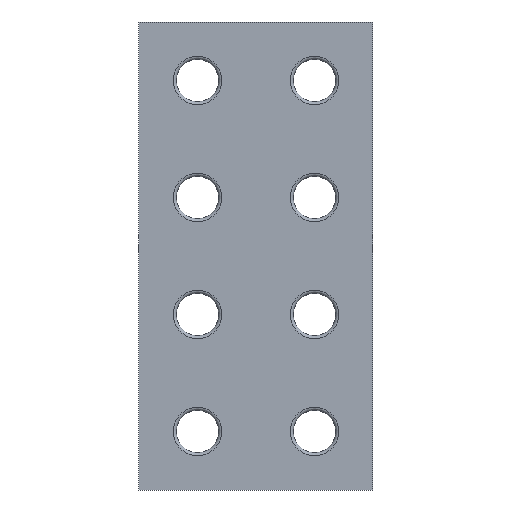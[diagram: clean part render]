
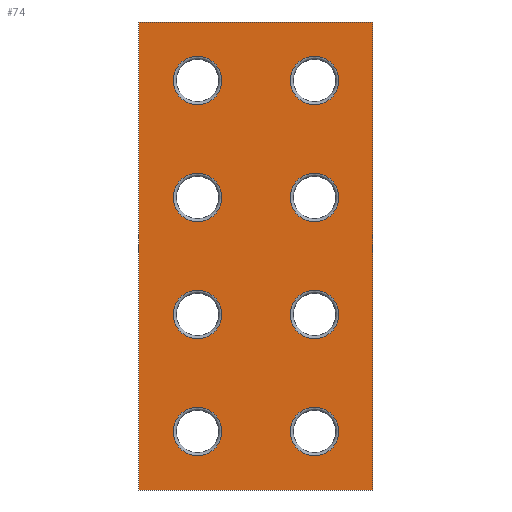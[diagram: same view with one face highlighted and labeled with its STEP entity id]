
A CAD part, left-side view. The second image highlights one B-rep face of the part: STEP entity #74.
In plain terms, the highlighted planar face has unit normal (-1, 0, 0).
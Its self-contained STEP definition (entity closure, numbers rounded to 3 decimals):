
#74 = ADVANCED_FACE( '', ( #186, #187, #188, #189, #190, #191, #192, #193, #194 ), #195, .F. );
#186 = FACE_BOUND( '', #387, .T. );
#187 = FACE_BOUND( '', #388, .T. );
#188 = FACE_BOUND( '', #389, .T. );
#189 = FACE_BOUND( '', #390, .T. );
#190 = FACE_BOUND( '', #391, .T. );
#191 = FACE_BOUND( '', #392, .T. );
#192 = FACE_BOUND( '', #393, .T. );
#193 = FACE_BOUND( '', #394, .T. );
#194 = FACE_OUTER_BOUND( '', #395, .T. );
#195 = PLANE( '', #396 );
#387 = EDGE_LOOP( '', ( #589 ) );
#388 = EDGE_LOOP( '', ( #590 ) );
#389 = EDGE_LOOP( '', ( #591 ) );
#390 = EDGE_LOOP( '', ( #592 ) );
#391 = EDGE_LOOP( '', ( #593 ) );
#392 = EDGE_LOOP( '', ( #594 ) );
#393 = EDGE_LOOP( '', ( #595 ) );
#394 = EDGE_LOOP( '', ( #596 ) );
#395 = EDGE_LOOP( '', ( #597, #598, #599, #600 ) );
#396 = AXIS2_PLACEMENT_3D( '', #601, #602, #603 );
#589 = ORIENTED_EDGE( '', *, *, #887, .T. );
#590 = ORIENTED_EDGE( '', *, *, #888, .T. );
#591 = ORIENTED_EDGE( '', *, *, #889, .T. );
#592 = ORIENTED_EDGE( '', *, *, #890, .T. );
#593 = ORIENTED_EDGE( '', *, *, #891, .T. );
#594 = ORIENTED_EDGE( '', *, *, #892, .T. );
#595 = ORIENTED_EDGE( '', *, *, #893, .T. );
#596 = ORIENTED_EDGE( '', *, *, #894, .T. );
#597 = ORIENTED_EDGE( '', *, *, #882, .F. );
#598 = ORIENTED_EDGE( '', *, *, #895, .F. );
#599 = ORIENTED_EDGE( '', *, *, #896, .F. );
#600 = ORIENTED_EDGE( '', *, *, #897, .F. );
#601 = CARTESIAN_POINT( '', ( -160., 0., 0. ) );
#602 = DIRECTION( '', ( 1., 0., 0. ) );
#603 = DIRECTION( '', ( 0., 1., 0. ) );
#882 = EDGE_CURVE( '', #990, #991, #992, .T. );
#887 = EDGE_CURVE( '', #999, #999, #1000, .T. );
#888 = EDGE_CURVE( '', #1001, #1001, #1002, .T. );
#889 = EDGE_CURVE( '', #1003, #1003, #1004, .T. );
#890 = EDGE_CURVE( '', #1005, #1005, #1006, .T. );
#891 = EDGE_CURVE( '', #1007, #1007, #1008, .T. );
#892 = EDGE_CURVE( '', #1009, #1009, #1010, .T. );
#893 = EDGE_CURVE( '', #1011, #1011, #1012, .T. );
#894 = EDGE_CURVE( '', #1013, #1013, #1014, .T. );
#895 = EDGE_CURVE( '', #1015, #990, #1016, .T. );
#896 = EDGE_CURVE( '', #1017, #1015, #1018, .T. );
#897 = EDGE_CURVE( '', #991, #1017, #1019, .T. );
#990 = VERTEX_POINT( '', #1152 );
#991 = VERTEX_POINT( '', #1153 );
#992 = LINE( '', #1154, #1155 );
#999 = VERTEX_POINT( '', #1165 );
#1000 = CIRCLE( '', #1166, 7.26 );
#1001 = VERTEX_POINT( '', #1167 );
#1002 = CIRCLE( '', #1168, 7.26 );
#1003 = VERTEX_POINT( '', #1169 );
#1004 = CIRCLE( '', #1170, 7.26 );
#1005 = VERTEX_POINT( '', #1171 );
#1006 = CIRCLE( '', #1172, 7.26 );
#1007 = VERTEX_POINT( '', #1173 );
#1008 = CIRCLE( '', #1174, 7.26 );
#1009 = VERTEX_POINT( '', #1175 );
#1010 = CIRCLE( '', #1176, 7.26 );
#1011 = VERTEX_POINT( '', #1177 );
#1012 = CIRCLE( '', #1178, 7.26 );
#1013 = VERTEX_POINT( '', #1179 );
#1014 = CIRCLE( '', #1180, 7.26 );
#1015 = VERTEX_POINT( '', #1181 );
#1016 = LINE( '', #1182, #1183 );
#1017 = VERTEX_POINT( '', #1184 );
#1018 = LINE( '', #1185, #1186 );
#1019 = LINE( '', #1187, #1188 );
#1152 = CARTESIAN_POINT( '', ( -160., -35., 70. ) );
#1153 = CARTESIAN_POINT( '', ( -160., -35., -70. ) );
#1154 = CARTESIAN_POINT( '', ( -160., -35., 70. ) );
#1155 = VECTOR( '', #1326, 1000. );
#1165 = CARTESIAN_POINT( '', ( -160., -10.24, -52.5 ) );
#1166 = AXIS2_PLACEMENT_3D( '', #1330, #1331, #1332 );
#1167 = CARTESIAN_POINT( '', ( -160., -10.24, -17.5 ) );
#1168 = AXIS2_PLACEMENT_3D( '', #1333, #1334, #1335 );
#1169 = CARTESIAN_POINT( '', ( -160., -10.24, 17.5 ) );
#1170 = AXIS2_PLACEMENT_3D( '', #1336, #1337, #1338 );
#1171 = CARTESIAN_POINT( '', ( -160., -10.24, 52.5 ) );
#1172 = AXIS2_PLACEMENT_3D( '', #1339, #1340, #1341 );
#1173 = CARTESIAN_POINT( '', ( -160., 24.76, -52.5 ) );
#1174 = AXIS2_PLACEMENT_3D( '', #1342, #1343, #1344 );
#1175 = CARTESIAN_POINT( '', ( -160., 24.76, -17.5 ) );
#1176 = AXIS2_PLACEMENT_3D( '', #1345, #1346, #1347 );
#1177 = CARTESIAN_POINT( '', ( -160., 24.76, 17.5 ) );
#1178 = AXIS2_PLACEMENT_3D( '', #1348, #1349, #1350 );
#1179 = CARTESIAN_POINT( '', ( -160., 24.76, 52.5 ) );
#1180 = AXIS2_PLACEMENT_3D( '', #1351, #1352, #1353 );
#1181 = CARTESIAN_POINT( '', ( -160., 35., 70. ) );
#1182 = CARTESIAN_POINT( '', ( -160., 35., 70. ) );
#1183 = VECTOR( '', #1354, 1000. );
#1184 = CARTESIAN_POINT( '', ( -160., 35., -70. ) );
#1185 = CARTESIAN_POINT( '', ( -160., 35., -70. ) );
#1186 = VECTOR( '', #1355, 1000. );
#1187 = CARTESIAN_POINT( '', ( -160., -35., -70. ) );
#1188 = VECTOR( '', #1356, 1000. );
#1326 = DIRECTION( '', ( 0., 0., -1. ) );
#1330 = CARTESIAN_POINT( '', ( -160., -17.5, -52.5 ) );
#1331 = DIRECTION( '', ( 1., 0., 0. ) );
#1332 = DIRECTION( '', ( 0., 1., 0. ) );
#1333 = CARTESIAN_POINT( '', ( -160., -17.5, -17.5 ) );
#1334 = DIRECTION( '', ( 1., 0., 0. ) );
#1335 = DIRECTION( '', ( 0., 1., 0. ) );
#1336 = CARTESIAN_POINT( '', ( -160., -17.5, 17.5 ) );
#1337 = DIRECTION( '', ( 1., 0., 0. ) );
#1338 = DIRECTION( '', ( 0., 1., 0. ) );
#1339 = CARTESIAN_POINT( '', ( -160., -17.5, 52.5 ) );
#1340 = DIRECTION( '', ( 1., 0., 0. ) );
#1341 = DIRECTION( '', ( 0., 1., 0. ) );
#1342 = CARTESIAN_POINT( '', ( -160., 17.5, -52.5 ) );
#1343 = DIRECTION( '', ( 1., 0., 0. ) );
#1344 = DIRECTION( '', ( 0., 1., 0. ) );
#1345 = CARTESIAN_POINT( '', ( -160., 17.5, -17.5 ) );
#1346 = DIRECTION( '', ( 1., 0., 0. ) );
#1347 = DIRECTION( '', ( 0., 1., 0. ) );
#1348 = CARTESIAN_POINT( '', ( -160., 17.5, 17.5 ) );
#1349 = DIRECTION( '', ( 1., 0., 0. ) );
#1350 = DIRECTION( '', ( 0., 1., 0. ) );
#1351 = CARTESIAN_POINT( '', ( -160., 17.5, 52.5 ) );
#1352 = DIRECTION( '', ( 1., 0., 0. ) );
#1353 = DIRECTION( '', ( 0., 1., 0. ) );
#1354 = DIRECTION( '', ( 0., -1., 0. ) );
#1355 = DIRECTION( '', ( 0., 0., 1. ) );
#1356 = DIRECTION( '', ( 0., 1., 0. ) );
